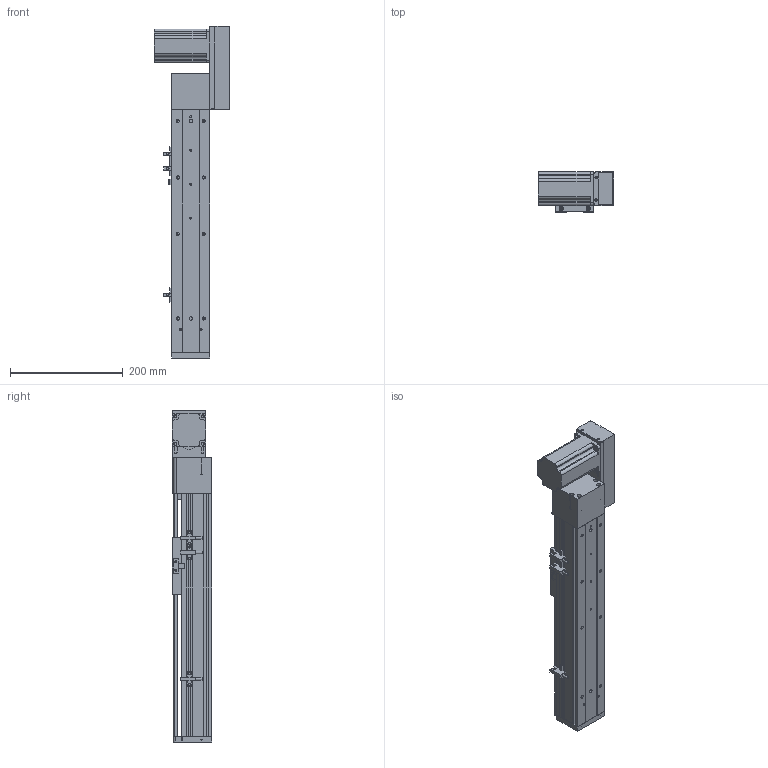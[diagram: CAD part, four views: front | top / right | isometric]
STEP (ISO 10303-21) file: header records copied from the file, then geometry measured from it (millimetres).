
FILE_DESCRIPTION (( 'STEP AP203' ), '1' );
FILE_NAME ('ML68-S250-CL.STEP', '2016-08-04T11:45:13', ( '' ), ( '' ), 'SwSTEP 2.0', 'SolidWorks 2014', '' );
FILE_SCHEMA (( 'CONFIG_CONTROL_DESIGN' ));
Length unit declared in the file: millimetre
Products named in the file (12): ML68奻裔^ML68-S250-CL; ML68滅鳥啣盓傅輸媼; QS68左右折电机板罩子; 換覜ん; 60換覜結え; ML68雄赽釱; ML68-S250-CL; ML68菁釱^ML68-S250-CL; 三协电机MH201N2_預設; QS68酘衵殏萇儂啣; ML68-BR傷啣; ML68傷啣
Assembly tree (13 placements, depth 2):
  ML68-S250-CL
    ML68菁釱^ML68-S250-CL
    ML68奻裔^ML68-S250-CL
    60換覜結え
    ML68-BR傷啣
    換覜ん  x3
    ML68傷啣
    三协电机MH201N2_預設
    ML68雄赽釱
    QS68酘衵殏萇儂啣
    QS68左右折电机板罩子
    ML68滅鳥啣盓傅輸媼
Bounding box: 133.5 x 70.5 x 588.5 mm (x, y, z)
Volume: 1262806.1 mm3; surface area: 426685.2 mm2
Topology: 13 solids, 13 shells, 849 faces, 2322 edges, 1475 vertices
Faces by surface type: cylinder 382, plane 375, cone 92
Entity records: 26662 total; most frequent: CARTESIAN_POINT 4902, DIRECTION 4392, ORIENTED_EDGE 4152, EDGE_CURVE 2076, AXIS2_PLACEMENT_3D 1577, VERTEX_POINT 1363, LINE 1238, VECTOR 1238
